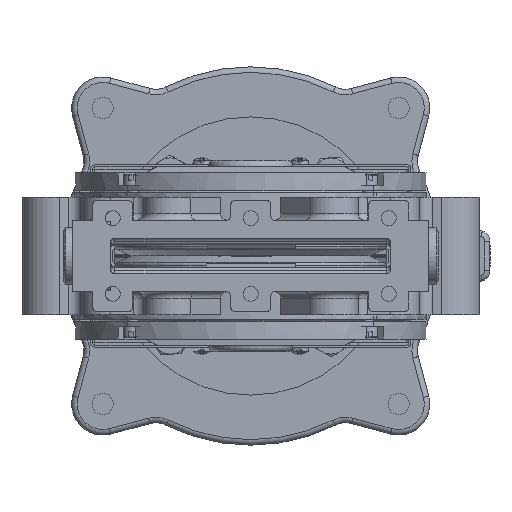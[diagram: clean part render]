
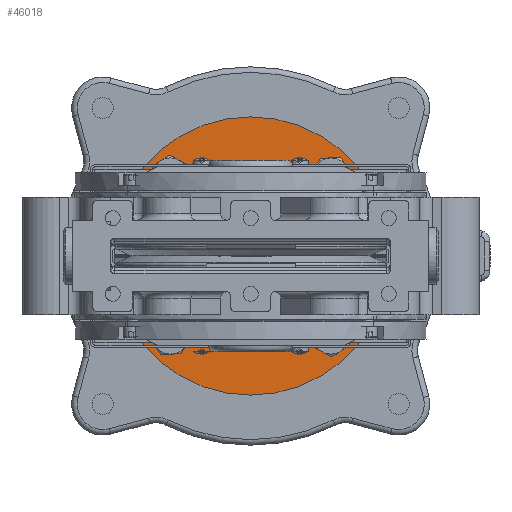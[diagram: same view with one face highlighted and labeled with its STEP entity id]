
A CAD part, front view. The second image highlights one B-rep face of the part: STEP entity #46018.
In plain terms, the highlighted planar face has unit normal (0, -1, 0).
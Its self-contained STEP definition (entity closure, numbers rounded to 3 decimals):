
#2258=FACE_BOUND('',#12659,.T.);
#2259=FACE_BOUND('',#12660,.T.);
#2260=FACE_BOUND('',#12661,.T.);
#2261=FACE_BOUND('',#12662,.T.);
#2262=FACE_BOUND('',#12663,.T.);
#9852=FACE_OUTER_BOUND('',#12658,.T.);
#12658=EDGE_LOOP('',(#36479,#36480));
#12659=EDGE_LOOP('',(#36481,#36482));
#12660=EDGE_LOOP('',(#36483,#36484));
#12661=EDGE_LOOP('',(#36485,#36486));
#12662=EDGE_LOOP('',(#36487,#36488));
#12663=EDGE_LOOP('',(#36489,#36490));
#14374=CIRCLE('',#48386,7.315);
#14375=CIRCLE('',#48387,7.315);
#14390=CIRCLE('',#48419,7.315);
#14391=CIRCLE('',#48420,7.315);
#15656=CIRCLE('',#50745,29.);
#15657=CIRCLE('',#50746,29.);
#15659=CIRCLE('',#50749,62.5);
#15660=CIRCLE('',#50750,62.5);
#15661=CIRCLE('',#50751,7.315);
#15662=CIRCLE('',#50752,7.315);
#15663=CIRCLE('',#50753,7.315);
#15664=CIRCLE('',#50754,7.315);
#17839=VERTEX_POINT('',#72957);
#17840=VERTEX_POINT('',#72958);
#17867=VERTEX_POINT('',#73068);
#17868=VERTEX_POINT('',#73069);
#19518=VERTEX_POINT('',#87663);
#19519=VERTEX_POINT('',#87664);
#19520=VERTEX_POINT('',#87669);
#19521=VERTEX_POINT('',#87670);
#19522=VERTEX_POINT('',#87673);
#19523=VERTEX_POINT('',#87674);
#19524=VERTEX_POINT('',#87677);
#19525=VERTEX_POINT('',#87678);
#22680=EDGE_CURVE('',#17839,#17840,#14374,.T.);
#22681=EDGE_CURVE('',#17840,#17839,#14375,.T.);
#22722=EDGE_CURVE('',#17867,#17868,#14390,.T.);
#22723=EDGE_CURVE('',#17868,#17867,#14391,.T.);
#25432=EDGE_CURVE('',#19518,#19519,#15656,.T.);
#25433=EDGE_CURVE('',#19519,#19518,#15657,.T.);
#25435=EDGE_CURVE('',#19520,#19521,#15659,.T.);
#25436=EDGE_CURVE('',#19521,#19520,#15660,.T.);
#25437=EDGE_CURVE('',#19522,#19523,#15661,.T.);
#25438=EDGE_CURVE('',#19523,#19522,#15662,.T.);
#25439=EDGE_CURVE('',#19524,#19525,#15663,.T.);
#25440=EDGE_CURVE('',#19525,#19524,#15664,.T.);
#36479=ORIENTED_EDGE('',*,*,#25435,.F.);
#36480=ORIENTED_EDGE('',*,*,#25436,.F.);
#36481=ORIENTED_EDGE('',*,*,#25437,.T.);
#36482=ORIENTED_EDGE('',*,*,#25438,.T.);
#36483=ORIENTED_EDGE('',*,*,#22680,.T.);
#36484=ORIENTED_EDGE('',*,*,#22681,.T.);
#36485=ORIENTED_EDGE('',*,*,#25439,.T.);
#36486=ORIENTED_EDGE('',*,*,#25440,.T.);
#36487=ORIENTED_EDGE('',*,*,#22722,.T.);
#36488=ORIENTED_EDGE('',*,*,#22723,.T.);
#36489=ORIENTED_EDGE('',*,*,#25432,.T.);
#36490=ORIENTED_EDGE('',*,*,#25433,.T.);
#41634=PLANE('',#50748);
#46018=ADVANCED_FACE('',(#9852,#2258,#2259,#2260,#2261,#2262),#41634,.T.);
#48386=AXIS2_PLACEMENT_3D('',#72959,#55997,#55998);
#48387=AXIS2_PLACEMENT_3D('',#72960,#55999,#56000);
#48419=AXIS2_PLACEMENT_3D('',#73070,#56077,#56078);
#48420=AXIS2_PLACEMENT_3D('',#73071,#56079,#56080);
#50745=AXIS2_PLACEMENT_3D('',#87665,#61583,#61584);
#50746=AXIS2_PLACEMENT_3D('',#87666,#61585,#61586);
#50748=AXIS2_PLACEMENT_3D('',#87668,#61589,#61590);
#50749=AXIS2_PLACEMENT_3D('',#87671,#61591,#61592);
#50750=AXIS2_PLACEMENT_3D('',#87672,#61593,#61594);
#50751=AXIS2_PLACEMENT_3D('',#87675,#61595,#61596);
#50752=AXIS2_PLACEMENT_3D('',#87676,#61597,#61598);
#50753=AXIS2_PLACEMENT_3D('',#87679,#61599,#61600);
#50754=AXIS2_PLACEMENT_3D('',#87680,#61601,#61602);
#55997=DIRECTION('center_axis',(0.,1.,0.));
#55998=DIRECTION('ref_axis',(0.029,0.,-1.));
#55999=DIRECTION('center_axis',(0.,1.,0.));
#56000=DIRECTION('ref_axis',(0.029,0.,-1.));
#56077=DIRECTION('center_axis',(0.,1.,0.));
#56078=DIRECTION('ref_axis',(-0.029,0.,1.));
#56079=DIRECTION('center_axis',(0.,1.,0.));
#56080=DIRECTION('ref_axis',(-0.029,0.,1.));
#61583=DIRECTION('center_axis',(0.,1.,0.));
#61584=DIRECTION('ref_axis',(0.,0.,
1.));
#61585=DIRECTION('center_axis',(0.,1.,0.));
#61586=DIRECTION('ref_axis',(0.,0.,
1.));
#61589=DIRECTION('center_axis',(0.,-1.,0.));
#61590=DIRECTION('ref_axis',(0.,0.,
-1.));
#61591=DIRECTION('center_axis',(0.,1.,0.));
#61592=DIRECTION('ref_axis',(0.,0.,
1.));
#61593=DIRECTION('center_axis',(0.,1.,0.));
#61594=DIRECTION('ref_axis',(0.,0.,
1.));
#61595=DIRECTION('center_axis',(0.,1.,0.));
#61596=DIRECTION('ref_axis',(-1.,0.,-0.029));
#61597=DIRECTION('center_axis',(0.,1.,0.));
#61598=DIRECTION('ref_axis',(-1.,0.,-0.029));
#61599=DIRECTION('center_axis',(0.,1.,0.));
#61600=DIRECTION('ref_axis',(1.,0.,0.029));
#61601=DIRECTION('center_axis',(0.,1.,0.));
#61602=DIRECTION('ref_axis',(1.,0.,0.029));
#72957=CARTESIAN_POINT('',(-35.854,531.5,28.75));
#72958=CARTESIAN_POINT('',(-36.271,531.5,43.374));
#72959=CARTESIAN_POINT('Origin',(-36.063,531.5,36.062));
#72960=CARTESIAN_POINT('Origin',(-36.063,531.5,36.062));
#73068=CARTESIAN_POINT('',(35.853,531.5,-28.75));
#73069=CARTESIAN_POINT('',(36.271,531.5,-43.374));
#73070=CARTESIAN_POINT('Origin',(36.062,531.5,-36.062));
#73071=CARTESIAN_POINT('Origin',(36.062,531.5,-36.062));
#87663=CARTESIAN_POINT('',(-29.,531.5,0.));
#87664=CARTESIAN_POINT('',(0.,531.5,-29.));
#87665=CARTESIAN_POINT('Origin',(0.,531.5,
0.));
#87666=CARTESIAN_POINT('Origin',(0.,531.5,
0.));
#87668=CARTESIAN_POINT('Origin',(-62.5,531.5,0.));
#87669=CARTESIAN_POINT('',(-62.5,531.5,0.));
#87670=CARTESIAN_POINT('',(62.5,531.5,0.));
#87671=CARTESIAN_POINT('Origin',(0.,531.5,
0.));
#87672=CARTESIAN_POINT('Origin',(0.,531.5,
0.));
#87673=CARTESIAN_POINT('',(28.75,531.5,35.854));
#87674=CARTESIAN_POINT('',(43.374,531.5,36.271));
#87675=CARTESIAN_POINT('Origin',(36.062,531.5,36.062));
#87676=CARTESIAN_POINT('Origin',(36.062,531.5,36.062));
#87677=CARTESIAN_POINT('',(-28.751,531.5,-35.854));
#87678=CARTESIAN_POINT('',(-43.375,531.5,-36.271));
#87679=CARTESIAN_POINT('Origin',(-36.063,531.5,-36.062));
#87680=CARTESIAN_POINT('Origin',(-36.063,531.5,-36.062));
